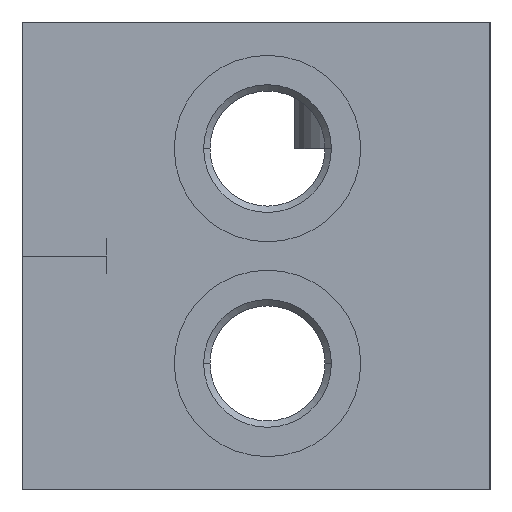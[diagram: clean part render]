
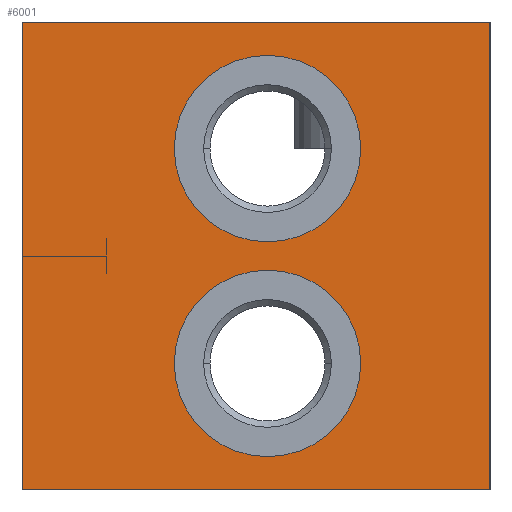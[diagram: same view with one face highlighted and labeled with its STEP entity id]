
A CAD part, left-side view. The second image highlights one B-rep face of the part: STEP entity #6001.
In plain terms, the highlighted planar face has unit normal (-1, 0, 0).
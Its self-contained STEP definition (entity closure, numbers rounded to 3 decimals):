
#25=DIRECTION('',(0.,-1.,0.));
#26=VECTOR('',#25,61.);
#27=CARTESIAN_POINT('',(0.,61.,0.));
#28=LINE('',#27,#26);
#157=DIRECTION('',(0.,0.,-1.));
#158=VECTOR('',#157,61.);
#159=CARTESIAN_POINT('',(0.,0.,0.));
#160=LINE('',#159,#158);
#1079=DIRECTION('',(0.,0.,-1.));
#1080=VECTOR('',#1079,61.);
#1081=CARTESIAN_POINT('',(0.,61.,0.));
#1082=LINE('',#1081,#1080);
#1083=CARTESIAN_POINT('',(0.,29.,-44.5));
#1084=DIRECTION('',(1.,0.,0.));
#1085=DIRECTION('',(0.,-1.,0.));
#1086=AXIS2_PLACEMENT_3D('',#1083,#1084,#1085);
#1088=CARTESIAN_POINT('',(0.,29.,-44.5));
#1089=DIRECTION('',(1.,0.,0.));
#1090=DIRECTION('',(0.,1.,0.));
#1091=AXIS2_PLACEMENT_3D('',#1088,#1089,#1090);
#1093=CARTESIAN_POINT('',(0.,29.,-16.5));
#1094=DIRECTION('',(1.,0.,0.));
#1095=DIRECTION('',(0.,-1.,0.));
#1096=AXIS2_PLACEMENT_3D('',#1093,#1094,#1095);
#1098=CARTESIAN_POINT('',(0.,29.,-16.5));
#1099=DIRECTION('',(1.,0.,0.));
#1100=DIRECTION('',(0.,1.,0.));
#1101=AXIS2_PLACEMENT_3D('',#1098,#1099,#1100);
#1115=DIRECTION('',(0.,-1.,0.));
#1116=VECTOR('',#1115,61.);
#1117=CARTESIAN_POINT('',(0.,61.,-61.));
#1118=LINE('',#1117,#1116);
#4626=CARTESIAN_POINT('',(0.,0.,0.));
#4628=VERTEX_POINT('',#4626);
#4632=CARTESIAN_POINT('',(0.,61.,0.));
#4633=VERTEX_POINT('',#4632);
#4634=CARTESIAN_POINT('',(0.,0.,-61.));
#4636=VERTEX_POINT('',#4634);
#4640=CARTESIAN_POINT('',(0.,61.,-61.));
#4641=VERTEX_POINT('',#4640);
#4654=CARTESIAN_POINT('',(0.,16.85,-44.5));
#4655=CARTESIAN_POINT('',(0.,41.15,-44.5));
#4656=VERTEX_POINT('',#4654);
#4657=VERTEX_POINT('',#4655);
#4670=CARTESIAN_POINT('',(0.,16.85,-16.5));
#4671=CARTESIAN_POINT('',(0.,41.15,-16.5));
#4672=VERTEX_POINT('',#4670);
#4673=VERTEX_POINT('',#4671);
#5977=CARTESIAN_POINT('',(0.,61.,0.));
#5978=DIRECTION('',(-1.,0.,0.));
#5979=DIRECTION('',(0.,-1.,0.));
#5980=AXIS2_PLACEMENT_3D('',#5977,#5978,#5979);
#5981=PLANE('',#5980);
#5982=ORIENTED_EDGE('',*,*,#5541,.T.);
#5983=ORIENTED_EDGE('',*,*,#5632,.T.);
#5985=ORIENTED_EDGE('',*,*,#5984,.F.);
#5986=ORIENTED_EDGE('',*,*,#5711,.F.);
#5987=EDGE_LOOP('',(#5982,#5983,#5985,#5986));
#5988=FACE_OUTER_BOUND('',#5987,.F.);
#5990=ORIENTED_EDGE('',*,*,#5989,.F.);
#5992=ORIENTED_EDGE('',*,*,#5991,.F.);
#5993=EDGE_LOOP('',(#5990,#5992));
#5994=FACE_BOUND('',#5993,.F.);
#5996=ORIENTED_EDGE('',*,*,#5995,.F.);
#5998=ORIENTED_EDGE('',*,*,#5997,.F.);
#5999=EDGE_LOOP('',(#5996,#5998));
#6000=FACE_BOUND('',#5999,.F.);
#1087=CIRCLE('',#1086,12.15);
#1092=CIRCLE('',#1091,12.15);
#1097=CIRCLE('',#1096,12.15);
#1102=CIRCLE('',#1101,12.15);
#5541=EDGE_CURVE('',#4633,#4628,#28,.T.);
#5632=EDGE_CURVE('',#4628,#4636,#160,.T.);
#5711=EDGE_CURVE('',#4633,#4641,#1082,.T.);
#5984=EDGE_CURVE('',#4641,#4636,#1118,.T.);
#5989=EDGE_CURVE('',#4656,#4657,#1087,.T.);
#5991=EDGE_CURVE('',#4657,#4656,#1092,.T.);
#5995=EDGE_CURVE('',#4672,#4673,#1097,.T.);
#5997=EDGE_CURVE('',#4673,#4672,#1102,.T.);
#6001=ADVANCED_FACE('',(#5988,#5994,#6000),#5981,.T.);
